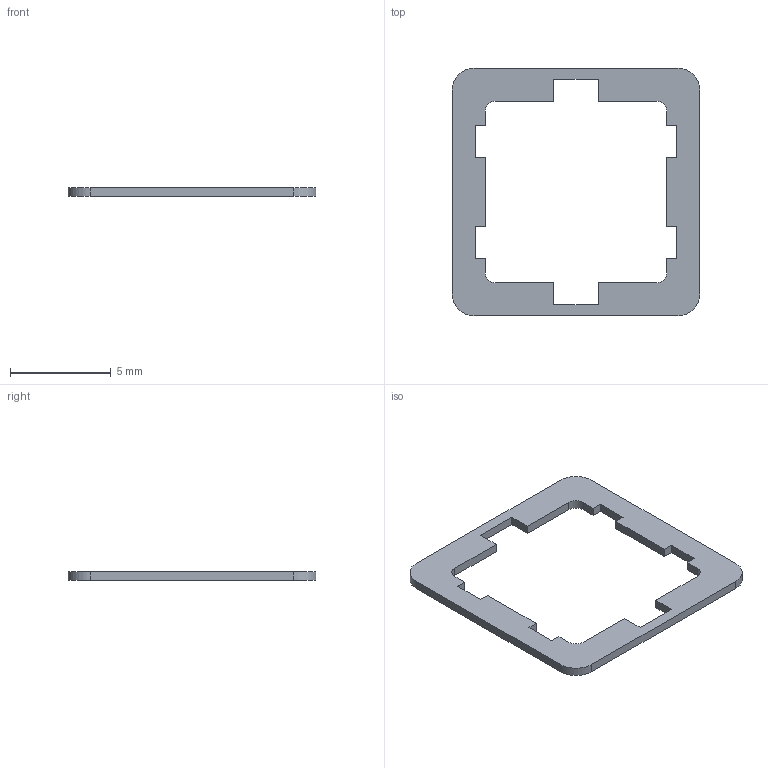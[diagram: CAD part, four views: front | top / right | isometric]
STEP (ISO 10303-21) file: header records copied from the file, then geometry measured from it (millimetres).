
FILE_DESCRIPTION(('Open CASCADE Model'),'2;1');
FILE_NAME('Open CASCADE Shape Model','2026-09-06T11:30:50',('Author'),( 'Open CASCADE'),'Open CASCADE STEP processor 7.7','Open CASCADE 7.7' ,'Unknown');
FILE_SCHEMA(('AUTOMOTIVE_DESIGN { 1 0 10303 214 1 1 1 1 }'));
Length unit declared in the file: millimetre
Products named in the file (1): Open CASCADE STEP translator 7.7 29
Bounding box: 12.3 x 12.3 x 0.44 mm (x, y, z)
Volume: 27 mm3; surface area: 162.8 mm2
Topology: 1 solids, 1 shells, 42 faces, 120 edges, 80 vertices
Faces by surface type: plane 34, cylinder 8
Entity records: 2810 total; most frequent: CARTESIAN_POINT 643, DIRECTION 322, ORIENTED_EDGE 240, PCURVE 240, DEFINITIONAL_REPRESENTATION 240, LINE 192, VECTOR 192, B_SPLINE_CURVE_WITH_KNOTS 136
